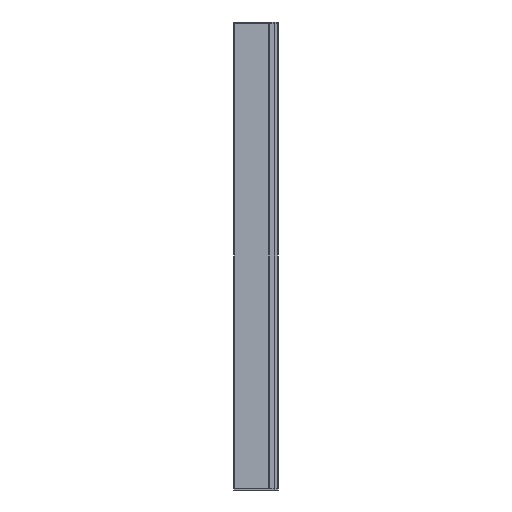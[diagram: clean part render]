
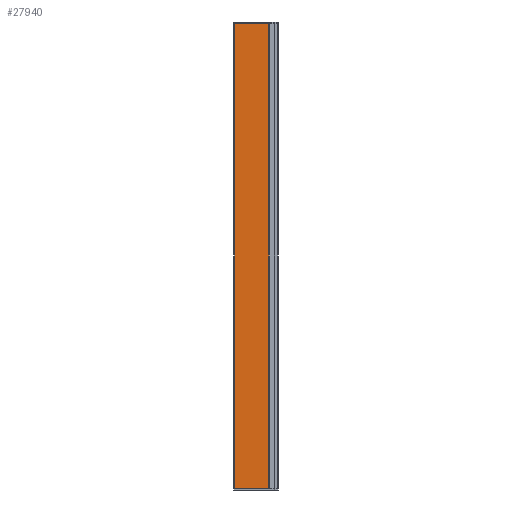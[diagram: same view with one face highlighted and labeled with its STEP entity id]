
A CAD part, left-side view. The second image highlights one B-rep face of the part: STEP entity #27940.
In plain terms, the highlighted planar face has unit normal (-1, 0, 0).
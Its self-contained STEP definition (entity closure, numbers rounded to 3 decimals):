
#1417 = ORIENTED_EDGE ( 'NONE', *, *, #18279, .F. ) ;
#3013 = LINE ( 'NONE', #11983, #13709 ) ;
#3177 = AXIS2_PLACEMENT_3D ( 'NONE', #13924, #13534, #22856 ) ;
#3477 = CARTESIAN_POINT ( 'NONE',  ( -19., 26.417, 140. ) ) ;
#4671 = LINE ( 'NONE', #29629, #11073 ) ;
#5703 = ORIENTED_EDGE ( 'NONE', *, *, #22980, .T. ) ;
#6520 = VERTEX_POINT ( 'NONE', #3477 ) ;
#7825 = ORIENTED_EDGE ( 'NONE', *, *, #19040, .T. ) ;
#8050 = VERTEX_POINT ( 'NONE', #8949 ) ;
#8949 = CARTESIAN_POINT ( 'NONE',  ( -19., 5.9, -140. ) ) ;
#8951 = VECTOR ( 'NONE', #12639, 1000. ) ;
#11073 = VECTOR ( 'NONE', #20816, 1000. ) ;
#11224 = PLANE ( 'NONE',  #3177 ) ;
#11983 = CARTESIAN_POINT ( 'NONE',  ( -19., 26.417, 140. ) ) ;
#12639 = DIRECTION ( 'NONE',  ( 0., 0., -1. ) ) ;
#13534 = DIRECTION ( 'NONE',  ( 1., 0., 0. ) ) ;
#13709 = VECTOR ( 'NONE', #25281, 1000. ) ;
#13865 = CARTESIAN_POINT ( 'NONE',  ( -19., 5.9, 140. ) ) ;
#13924 = CARTESIAN_POINT ( 'NONE',  ( -19., 26.417, 140. ) ) ;
#13985 = VECTOR ( 'NONE', #24997, 1000. ) ;
#15023 = EDGE_LOOP ( 'NONE', ( #7825, #1417, #24323, #5703 ) ) ;
#18279 = EDGE_CURVE ( 'NONE', #25109, #8050, #28659, .T. ) ;
#19040 = EDGE_CURVE ( 'NONE', #26698, #8050, #4671, .T. ) ;
#20816 = DIRECTION ( 'NONE',  ( 0., -1., 0. ) ) ;
#22856 = DIRECTION ( 'NONE',  ( 0., 0., -1. ) ) ;
#22980 = EDGE_CURVE ( 'NONE', #6520, #26698, #29368, .T. ) ;
#24135 = EDGE_CURVE ( 'NONE', #6520, #25109, #3013, .T. ) ;
#24323 = ORIENTED_EDGE ( 'NONE', *, *, #24135, .F. ) ;
#24356 = CARTESIAN_POINT ( 'NONE',  ( -19., 26.417, -140. ) ) ;
#24997 = DIRECTION ( 'NONE',  ( 0., 0., -1. ) ) ;
#25109 = VERTEX_POINT ( 'NONE', #28839 ) ;
#25281 = DIRECTION ( 'NONE',  ( 0., -1., 0. ) ) ;
#26698 = VERTEX_POINT ( 'NONE', #24356 ) ;
#27810 = FACE_OUTER_BOUND ( 'NONE', #15023, .T. ) ;
#27940 = ADVANCED_FACE ( 'NONE', ( #27810 ), #11224, .F. ) ;
#28576 = CARTESIAN_POINT ( 'NONE',  ( -19., 26.417, 140. ) ) ;
#28659 = LINE ( 'NONE', #13865, #13985 ) ;
#28839 = CARTESIAN_POINT ( 'NONE',  ( -19., 5.9, 140. ) ) ;
#29368 = LINE ( 'NONE', #28576, #8951 ) ;
#29629 = CARTESIAN_POINT ( 'NONE',  ( -19., 26.417, -140. ) ) ;
